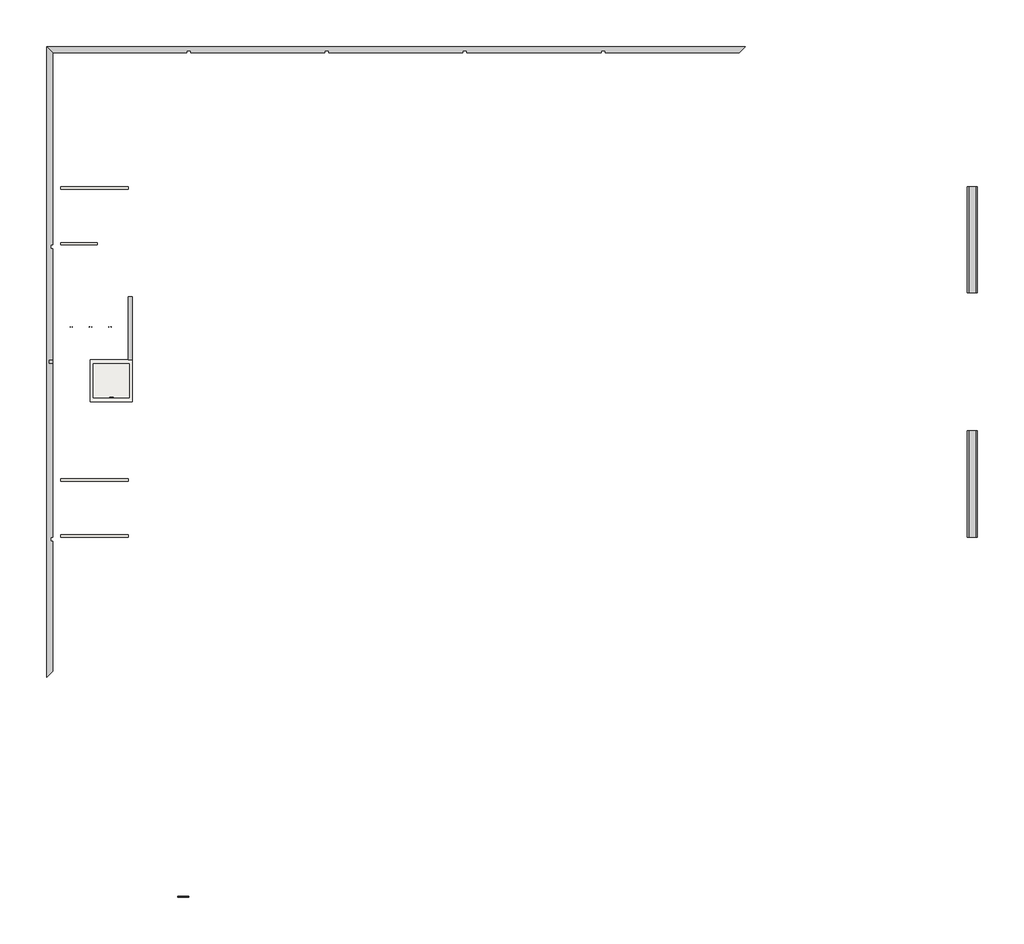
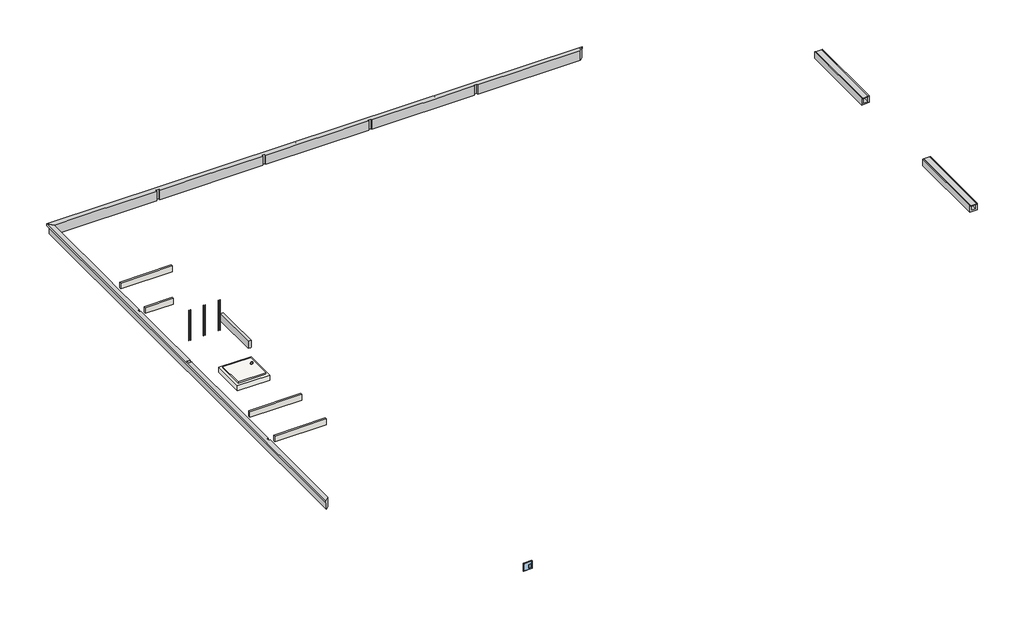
# One storey: 4 walls, 3 beams, 2 flow terminals, 2 proxies, 2 slabs, 1 light fixture, 1 window.
"""IFC4 building model written with IfcOpenShell, lengths in millimetres."""

import ifcopenshell
import ifcopenshell.guid

model = None  # the IFC model being written
_history = None  # IfcOwnerHistory: only IFC2X3 demands one
_inside = {}  # id of a spatial element -> (the spatial element, [elements in it])
_under = {}  # id of a project, library or spatial element -> (it, [spatial elements below it])
_declared = {}  # id of a project -> (the project, [libraries it declares])
_typed = {}  # id of a type object -> (the type object, [elements of that type])
_made_of = {}  # id of a material, layer set ... -> (it, [elements and type objects made of it])


def new_model(schema):
    """Start an empty IFC model of exactly this schema.

    Asked for "IFC4X3", IfcOpenShell would pick the latest addendum, in which some entities
    have other attributes; the version numbers below select the first issue.
    IFC2X3 requires an IfcOwnerHistory on every rooted entity: one is made here for all.
    """
    global model, _history
    if schema == "IFC4X3":
        model = ifcopenshell.file(schema_version=(4, 3, 0, 0))
    else:
        model = ifcopenshell.file(schema=schema)
    _inside.clear()
    _under.clear()
    _declared.clear()
    _typed.clear()
    _made_of.clear()
    _history = None
    if model.schema == "IFC2X3":
        org = make("IfcOrganization", Name="unknown")
        user = make(
            "IfcPersonAndOrganization",
            ThePerson=make("IfcPerson", FamilyName="unknown"),
            TheOrganization=org,
        )
        app = make(
            "IfcApplication",
            ApplicationDeveloper=org,
            Version="unknown",
            ApplicationFullName="unknown",
            ApplicationIdentifier="unknown",
        )
        _history = make(
            "IfcOwnerHistory",
            OwningUser=user,
            OwningApplication=app,
            ChangeAction="ADDED",
            CreationDate=0,
        )
    return model


def make(cls, **values):
    """One entity of the class cls with the attributes given. An attribute that is None is left unset."""
    return model.create_entity(
        cls, **{name: value for name, value in values.items() if value is not None}
    )


def rooted(cls, **values):
    """An entity with a GlobalId (a new one), such as an element, a storey or a relation."""
    return make(cls, GlobalId=ifcopenshell.guid.new(), OwnerHistory=_history, **values)


def si_unit(unit_type, name, prefix=None):
    """IfcSIUnit, for example si_unit("LENGTHUNIT", "METRE", prefix="MILLI")."""
    return make("IfcSIUnit", UnitType=unit_type, Prefix=prefix, Name=name)


def assignment(units):
    """IfcUnitAssignment: the units of a project."""
    return None if units is None else make("IfcUnitAssignment", Units=units)


def point(xyz):
    """IfcCartesianPoint."""
    return None if xyz is None else make("IfcCartesianPoint", Coordinates=xyz)


def direction(xyz):
    """IfcDirection."""
    return None if xyz is None else make("IfcDirection", DirectionRatios=xyz)


def frame(location, z_axis=None, x_axis=None):
    """IfcAxis2Placement3D, a coordinate frame: its origin and axes. An axis left out is left unset."""
    return make(
        "IfcAxis2Placement3D",
        Location=point(location),
        Axis=direction(z_axis),
        RefDirection=direction(x_axis),
    )


def frame_2d(location, x_axis=None):
    """IfcAxis2Placement2D, a coordinate frame in the plane: its origin and x axis."""
    return make(
        "IfcAxis2Placement2D", Location=point(location), RefDirection=direction(x_axis)
    )


def origin():
    """The frame at (0, 0, 0) with its axes left unset."""
    return frame((0.0, 0.0, 0.0))


def origin_with_axes():
    """The frame at (0, 0, 0) with the z axis (0, 0, 1) and the x axis (1, 0, 0) written out."""
    return frame((0.0, 0.0, 0.0), z_axis=(0.0, 0.0, 1.0), x_axis=(1.0, 0.0, 0.0))


def origin_2d():
    """The frame at (0, 0) in the plane with its x axis left unset."""
    return frame_2d((0.0, 0.0))


def place(relative_to, where):
    """IfcLocalPlacement: puts the frame where relative to a parent placement (None: the world)."""
    return make(
        "IfcLocalPlacement", PlacementRelTo=relative_to, RelativePlacement=where
    )


def context(
    kind, dimensions, precision=None, world=None, true_north=None, identifier=None
):
    """IfcGeometricRepresentationContext, for example the 3D "Model" context."""
    return make(
        "IfcGeometricRepresentationContext",
        ContextIdentifier=identifier,
        ContextType=kind,
        CoordinateSpaceDimension=dimensions,
        Precision=precision,
        WorldCoordinateSystem=world,
        TrueNorth=true_north,
    )


def project(units=None, contexts=None):
    """IfcProject with its units and contexts."""
    return rooted(
        "IfcProject",
        Name="project",
        RepresentationContexts=contexts,
        UnitsInContext=assignment(units),
    )


def spatial(cls, under=None, at=None, **own):
    """A site, building, storey or space (cls), placed at a placement, below another one or the project."""
    s = rooted(cls, ObjectPlacement=at, **own)
    if under is not None:
        _under.setdefault(under.id(), (under, []))[1].append(s)
    return s


def polyline(points):
    """IfcPolyline through the points."""
    return make("IfcPolyline", Points=[point(p) for p in points])


def circle_curve(where, radius):
    """IfcCircle in the frame where."""
    return make("IfcCircle", Position=where, Radius=radius)


def trimmed(basis, trim1, trim2, sense, master):
    """IfcTrimmedCurve: the piece of a basis curve between two trims."""
    return make(
        "IfcTrimmedCurve",
        BasisCurve=basis,
        Trim1=trim1,
        Trim2=trim2,
        SenseAgreement=sense,
        MasterRepresentation=master,
    )


def segment(curve, same_sense, transition):
    """IfcCompositeCurveSegment."""
    return make(
        "IfcCompositeCurveSegment",
        Transition=transition,
        SameSense=same_sense,
        ParentCurve=curve,
    )


def composite_curve(segments, self_intersect=None):
    """IfcCompositeCurve: segments joined end to end."""
    return make("IfcCompositeCurve", Segments=segments, SelfIntersect=self_intersect)


def outline(outer, holes=None, kind="AREA"):
    """IfcArbitraryClosedProfileDef: a profile drawn as a closed curve; with holes, ...WithVoids."""
    if holes is None:
        return make("IfcArbitraryClosedProfileDef", ProfileType=kind, OuterCurve=outer)
    return make(
        "IfcArbitraryProfileDefWithVoids",
        ProfileType=kind,
        OuterCurve=outer,
        InnerCurves=holes,
    )


def extrude(swept, where, along, depth):
    """IfcExtrudedAreaSolid: the profile swept, set in the frame where, extruded along a direction by depth."""
    return make(
        "IfcExtrudedAreaSolid",
        SweptArea=swept,
        Position=where,
        ExtrudedDirection=direction(along),
        Depth=depth,
    )


def faces_of(points, faces, orient=None, outer=None):
    """IfcFace entities. A face is a list of loops; a loop is a list of indices into points, from 0.

    orient and outer hold one flag for each loop. By default every Orientation is true, the
    first loop of a face is its IfcFaceOuterBound and the others are IfcFaceBound.
    """
    made = []
    for i, loops in enumerate(faces):
        bounds = []
        for j, loop in enumerate(loops):
            is_outer = j == 0 if outer is None else outer[i][j]
            bounds.append(
                make(
                    "IfcFaceOuterBound" if is_outer else "IfcFaceBound",
                    Bound=make("IfcPolyLoop", Polygon=[points[k] for k in loop]),
                    Orientation=True if orient is None else orient[i][j],
                )
            )
        made.append(make("IfcFace", Bounds=bounds))
    return made


def faceted_brep(points, faces, orient=None, outer=None, voids=None):
    """IfcFacetedBrep: a solid bounded by flat faces; with voids (closed shells), ...WithVoids."""
    shared = [point(p) for p in points]
    hull = make("IfcClosedShell", CfsFaces=faces_of(shared, faces, orient, outer))
    if voids is None:
        return make("IfcFacetedBrep", Outer=hull)
    return make(
        "IfcFacetedBrepWithVoids",
        Outer=hull,
        Voids=[
            make(cls, CfsFaces=faces_of(shared, fs, o, b)) for cls, fs, o, b in voids
        ],
    )


def shape(context_of_items, identifier, shape_type, items):
    """IfcShapeRepresentation: the items that make up one representation, for example the "Body"."""
    return make(
        "IfcShapeRepresentation",
        ContextOfItems=context_of_items,
        RepresentationIdentifier=identifier,
        RepresentationType=shape_type,
        Items=items,
    )


def source(mapping_origin, context_of_items, identifier, shape_type, items):
    """IfcRepresentationMap: a shape defined once, which mapped items show again and again."""
    return make(
        "IfcRepresentationMap",
        MappingOrigin=mapping_origin,
        MappedRepresentation=shape(context_of_items, identifier, shape_type, items),
    )


def transform(
    local_origin,
    x_axis=None,
    y_axis=None,
    z_axis=None,
    scale=None,
    scale2=None,
    scale3=None,
    uniform=True,
):
    """IfcCartesianTransformationOperator3D, or its non-uniform kind. x_axis, y_axis, z_axis: its Axis1, 2, 3."""
    if uniform:
        return make(
            "IfcCartesianTransformationOperator3D",
            Axis1=direction(x_axis),
            Axis2=direction(y_axis),
            LocalOrigin=point(local_origin),
            Scale=scale,
            Axis3=direction(z_axis),
        )
    return make(
        "IfcCartesianTransformationOperator3DnonUniform",
        Axis1=direction(x_axis),
        Axis2=direction(y_axis),
        LocalOrigin=point(local_origin),
        Scale=scale,
        Axis3=direction(z_axis),
        Scale2=scale2,
        Scale3=scale3,
    )


def mapped(mapping_source, mapping_target):
    """IfcMappedItem: shows the shape of a source again, moved by a transform."""
    return make(
        "IfcMappedItem", MappingSource=mapping_source, MappingTarget=mapping_target
    )


def made_of(thing, what):
    """Note that an element or type object is made of a material, layer set ...; save() writes the relation."""
    if what is not None:
        _made_of.setdefault(what.id(), (what, []))[1].append(thing)
    return thing


def element(
    cls,
    number,
    at=None,
    inside=None,
    cuts=None,
    type_object=None,
    material=None,
    context=None,
    identifier="Body",
    shape_type=None,
    held_by="IfcProductDefinitionShape",
    body=None,
    shapes=None,
    **own,
):
    """One element of the class cls, such as IfcWall. Its Tag is "e" and its number.

    at: its placement. inside: the storey or other place that contains it. cuts: it is an
    opening in that element (IfcRelVoidsElement). A single representation is given by context,
    identifier, shape_type and body (its items); several are given by shapes. held_by: the class
    of the entity that holds the representations. save() writes the other relations.
    """
    e = rooted(cls, Tag="e%d" % number, ObjectPlacement=at, **own)
    if body is not None:
        shapes = [shape(context, identifier, shape_type, body)]
    if shapes is not None:
        e.Representation = make(held_by, Representations=shapes)
    if inside is not None:
        _inside.setdefault(inside.id(), (inside, []))[1].append(e)
    if cuts is not None:
        rooted(
            "IfcRelVoidsElement", RelatingBuildingElement=cuts, RelatedOpeningElement=e
        )
    if type_object is not None:
        _typed.setdefault(type_object.id(), (type_object, []))[1].append(e)
    return made_of(e, material)


def aggregate(whole, parts):
    """IfcRelAggregates: a whole, such as a stair, and the parts it consists of."""
    return rooted("IfcRelAggregates", RelatingObject=whole, RelatedObjects=parts)


def save(model, path):
    """Write the relations noted so far, then the file.

    IfcRelAggregates (storeys below a building ...), IfcRelContainedInSpatialStructure (elements
    in a storey), IfcRelDefinesByType, IfcRelAssociatesMaterial and IfcRelDeclares: one each for
    every whole, place, type object, material and project.
    """
    for whole, parts in _under.values():
        aggregate(whole, parts)
    for where, things in _inside.values():
        rooted(
            "IfcRelContainedInSpatialStructure",
            RelatedElements=things,
            RelatingStructure=where,
        )
    for kind, things in _typed.values():
        rooted("IfcRelDefinesByType", RelatedObjects=things, RelatingType=kind)
    for what, things in _made_of.values():
        rooted("IfcRelAssociatesMaterial", RelatedObjects=things, RelatingMaterial=what)
    for by, libraries in _declared.values():
        rooted("IfcRelDeclares", RelatingContext=by, RelatedDefinitions=libraries)
    model.write(path)


def l209_cara_l209_cara_4ba3335d(model_context):
    return source(origin(), model_context, "Body", "SweptSolid", [
        extrude(outline(composite_curve([segment(trimmed(circle_curve(origin_2d(), 82.5), [point((-82.5, 0.0))], [point((82.5, 0.0))], False, "CARTESIAN"), True, "CONTINUOUS"), segment(trimmed(circle_curve(origin_2d(), 82.5), [point((82.5, 0.0))], [point((-82.5, 0.0))], False, "CARTESIAN"), True, "CONTINUOUS")], self_intersect=False)), frame((0.0, 0.0, 30.0), z_axis=(0.0, 0.0, 1.0), x_axis=(1.0, 0.0, 0.0)), (0.0, 0.0, 1.0), 10.0),
        extrude(outline(composite_curve([segment(trimmed(circle_curve(origin_2d(), 87.5), [point((87.5, 0.0))], [point((-87.5, 0.0))], False, "CARTESIAN"), True, "CONTINUOUS"), segment(trimmed(circle_curve(origin_2d(), 87.5), [point((-87.5, 0.0))], [point((87.5, 0.0))], False, "CARTESIAN"), True, "CONTINUOUS")], self_intersect=False), holes=[composite_curve([segment(trimmed(circle_curve(origin_2d(), 82.5), [point((82.5, 0.0))], [point((-82.5, 0.0))], True, "CARTESIAN"), True, "CONTINUOUS"), segment(trimmed(circle_curve(origin_2d(), 82.5), [point((-82.5, 0.0))], [point((82.5, 0.0))], True, "CARTESIAN"), True, "CONTINUOUS")], self_intersect=False)]), origin_with_axes(), (0.0, 0.0, 1.0), 40.0),
    ])


def window_ff0e7445(model_context):
    return source(origin(), model_context, "Body", "SolidModel", [
        extrude(outline(composite_curve([segment(trimmed(circle_curve(frame_2d((1045.0, -236.5)), 12.5), [point((1045.0, -249.0))], [point((1045.0, -224.0))], False, "CARTESIAN"), True, "CONTINUOUS"), segment(trimmed(circle_curve(frame_2d((1045.0, -236.5)), 12.5), [point((1045.0, -224.0))], [point((1045.0, -249.0))], False, "CARTESIAN"), True, "CONTINUOUS")], self_intersect=False)), frame((0.0, 35.7, 0.0), z_axis=(0.0, 1.0, 0.0), x_axis=(0.0, 0.0, 1.0)), (0.0, 0.0, 1.0), 20.0),
        extrude(outline(polyline([(-45.4127642, 52.4), (-195.4127642, 52.4), (-195.4127642, 53.7), (-45.4127642, 53.7), (-45.4127642, 52.4)])), frame((0.0, 0.0, 906.7518498), z_axis=(0.0, 0.0, 1.0), x_axis=(1.0, 0.0, 0.0)), (0.0, 0.0, 1.0), 250.0),
        faceted_brep([(271.5, 52.4, 1329.0), (271.5, 27.0, 1329.0), (271.5, 27.0, 806.0), (271.5, 52.4, 806.0), (-271.5, 27.0, 1329.0), (-271.5, 27.0, 806.0), (267.0, 27.0, 810.5), (-267.0, 27.0, 810.5), (-267.0, 27.0, 1324.5), (267.0, 27.0, 1324.5), (-271.5, 52.4, 806.0), (-271.5, 52.4, 1329.0), (246.1, 52.4, 1303.6), (-246.1, 52.4, 1303.6), (-246.1, 52.4, 831.4), (246.1, 52.4, 831.4), (267.0, 47.9, 1324.5), (267.0, 47.9, 810.5), (-267.0, 47.9, 1324.5), (-267.0, 47.9, 810.5), (246.1, 47.9, 831.4), (-246.1, 47.9, 831.4), (-246.1, 47.9, 1303.6), (246.1, 47.9, 1303.6)], [[[0, 1, 2, 3]], [[1, 4, 5, 2], [6, 7, 8, 9]], [[3, 2, 5, 10]], [[3, 10, 11, 0], [12, 13, 14, 15]], [[9, 16, 17, 6]], [[16, 18, 19, 17], [20, 21, 22, 23]], [[6, 17, 19, 7]], [[23, 12, 15, 20]], [[20, 15, 14, 21]], [[10, 5, 4, 11]], [[7, 19, 18, 8]], [[21, 14, 13, 22]], [[11, 4, 1, 0]], [[8, 18, 16, 9]], [[22, 13, 12, 23]]]),
        extrude(outline(polyline([(1329.0, -271.5), (806.0, -271.5), (806.0, 271.5), (1329.0, 271.5), (1329.0, -271.5)]), holes=[polyline([(1156.7518498, -45.4127642), (906.7518498, -45.4127642), (906.7518498, -195.4127642), (1156.7518498, -195.4127642), (1156.7518498, -45.4127642)])]), frame((0.0, 52.4, 0.0), z_axis=(0.0, 1.0, 0.0), x_axis=(0.0, 0.0, 1.0)), (0.0, 0.0, 1.0), 1.3),
        faceted_brep([(-277.5, 19.7, 1335.0), (-277.5, 45.1, 1335.0), (-277.5, 45.1, 800.0), (-277.5, 19.7, 800.0), (277.5, 45.1, 1335.0), (277.5, 45.1, 800.0), (-271.5, 45.1, 806.0), (271.5, 45.1, 806.0), (271.5, 45.1, 1329.0), (-271.5, 45.1, 1329.0), (277.5, 19.7, 800.0), (277.5, 19.7, 1335.0), (-252.1, 19.7, 1309.6), (252.1, 19.7, 1309.6), (252.1, 19.7, 825.4), (-252.1, 19.7, 825.4), (-271.5, 25.7, 1329.0), (-271.5, 25.7, 806.0), (271.5, 25.7, 1329.0), (271.5, 25.7, 806.0), (-252.1, 25.7, 825.4), (252.1, 25.7, 825.4), (252.1, 25.7, 1309.6), (-252.1, 25.7, 1309.6)], [[[0, 1, 2, 3]], [[1, 4, 5, 2], [6, 7, 8, 9]], [[3, 2, 5, 10]], [[3, 10, 11, 0], [12, 13, 14, 15]], [[9, 16, 17, 6]], [[16, 18, 19, 17], [20, 21, 22, 23]], [[6, 17, 19, 7]], [[23, 12, 15, 20]], [[20, 15, 14, 21]], [[10, 5, 4, 11]], [[7, 19, 18, 8]], [[21, 14, 13, 22]], [[11, 4, 1, 0]], [[8, 18, 16, 9]], [[22, 13, 12, 23]]]),
    ])


model = new_model("IFC4")

# Units and contexts
model_context = context("Model", 3, world=origin())
ifc_project = project(units=[si_unit("LENGTHUNIT", "METRE", prefix="MILLI")], contexts=[model_context])

# Site, building, storey
site = spatial("IfcSite", under=ifc_project)
building = spatial("IfcBuilding", under=site)
storey = spatial("IfcBuildingStorey", under=building, Name="SUBSUELO", Elevation=-1100.0)

# Beams
placement = place(None, origin())
element("IfcBeam", 1, ObjectType="ARES-I-HA-Viga con aleta-PET : Viga fundación-20x65cm-aleta11x11cm-PET", at=placement, inside=storey, context=model_context, shape_type="Brep", body=[
    faceted_brep([(3108.7173693, 31700.2304035, -160.0), (3108.7173693, 240.2304035, -160.0), (3098.7173693, 230.2304035, -150.0), (3098.7173693, 31710.2304035, -150.0), (3088.7173693, 220.2304035, -160.0), (3088.7173693, 31720.2304035, -160.0), (3078.7173693, 210.2304035, -160.0), (3078.7173693, 31730.2304035, -160.0), (3078.7173693, 210.2304035, -50.0), (3078.7173693, 31730.2304035, -50.0), (3388.7173693, 520.2304035, -50.0), (3388.7173693, 920.2304035, -50.0), (3388.7173693, 3693.5637368, -50.0), (3388.7173693, 3843.5637368, -50.0), (3388.7173693, 7020.2304035, -50.0), (3288.7173693, 7020.2304035, -50.0), (3288.7173693, 7220.2304035, -50.0), (3388.7173693, 7220.2304035, -50.0), (3388.7173693, 10120.2304035, -50.0), (3388.7173693, 10320.2304035, -50.0), (3388.7173693, 15850.2304035, -50.0), (3388.7173693, 15870.2304035, -50.0), (3188.7173694, 15870.2304035, -50.0), (3188.7173694, 16070.2304035, -50.0), (3388.7173693, 16070.2304035, -50.0), (3388.7173693, 19220.2304035, -50.0), (3388.7173693, 19420.2304035, -50.0), (3388.7173693, 21620.2304035, -50.0), (3288.7173693, 21620.2304035, -50.0), (3288.7173693, 21820.2304035, -50.0), (3388.7173693, 21820.2304035, -50.0), (3388.7173693, 24720.2304035, -50.0), (3388.7173693, 24920.2304035, -50.0), (3388.7173693, 28095.2304035, -50.0), (3388.7173693, 28245.2304035, -50.0), (3388.7173693, 31020.2304035, -50.0), (3388.7173693, 31420.2304035, -50.0), (3388.7173693, 31420.2304035, -700.0), (3388.7173693, 21820.2304035, -450.0), (3388.7173693, 21820.2304035, -560.0), (3388.7173693, 21820.2304035, -700.0), (3388.7173693, 24720.2304035, -700.0), (3388.7173693, 24920.2304035, -700.0), (3188.7173693, 320.2304035, -700.0), (3188.7173693, 31620.2304035, -700.0), (3288.7173693, 21820.2304035, -700.0), (3288.7173693, 21620.2304035, -700.0), (3388.7173693, 21620.2304035, -700.0), (3388.7173693, 16070.2304035, -700.0), (3388.7173693, 15870.2304035, -700.0), (3388.7173693, 14170.2304035, -700.0), (3388.7173693, 13970.2304035, -700.0), (3388.7173693, 10320.2304035, -700.0), (3388.7173693, 10120.2304035, -700.0), (3388.7173693, 7220.2304035, -700.0), (3288.7173693, 7220.2304035, -700.0), (3288.7173693, 7020.2304035, -700.0), (3388.7173693, 7020.2304035, -700.0), (3388.7173693, 520.2304035, -700.0), (3188.7173693, 320.2304035, -246.8762302), (3188.7173693, 320.2304035, -160.0), (3188.7173693, 15870.2304035, -160.0), (3188.7173693, 15870.2304035, -300.0), (3188.7173693, 16070.2304035, -300.0), (3188.7173693, 16070.2304035, -160.0), (3188.7173693, 31620.2304035, -160.0), (3388.7173693, 520.2304035, -241.3422496), (3388.7173693, 7020.2304035, -160.0), (3388.7173693, 7020.2304035, -241.3422496), (3388.7173693, 7220.2304035, -560.0), (3388.7173693, 7220.2304035, -450.0), (3388.7173693, 21620.2304035, -160.0), (3388.7173693, 21620.2304035, -246.259083), (3388.7173693, 16070.2304035, -300.0), (3388.7173693, 15870.2304035, -300.0)], [[[0, 1, 2, 3]], [[3, 2, 4, 5]], [[5, 4, 6, 7]], [[7, 6, 8, 9]], [[9, 8, 10, 11, 12, 13, 14, 15, 16, 17, 18, 19, 20, 21, 22, 23, 24, 25, 26, 27, 28, 29, 30, 31, 32, 33, 34, 35, 36]], [[37, 36, 35, 34, 33, 32, 31, 30, 38, 39, 40, 41, 42]], [[43, 44, 37, 42, 41, 40, 45, 46, 47, 48, 49, 50, 51, 52, 53, 54, 55, 56, 57, 58]], [[44, 43, 59, 60, 61, 62, 63, 64, 65]], [[1, 0, 65, 64, 61, 60]], [[1, 60, 59, 43, 58, 66, 10, 8, 6, 4, 2]], [[0, 3, 5, 7, 9, 36, 37, 44, 65]], [[56, 15, 14, 67, 68, 57]], [[16, 55, 54, 69, 70, 17]], [[15, 56, 55, 16]], [[10, 66, 58, 57, 68, 67, 14, 13, 12, 11]], [[46, 28, 27, 71, 72, 47]], [[29, 45, 40, 39, 38, 30]], [[28, 46, 45, 29]], [[17, 70, 69, 54, 53, 52, 51, 50, 49, 48, 47, 72, 71, 27, 26, 25, 24, 73, 74, 21, 20, 19, 18]], [[73, 63, 62, 74]], [[63, 73, 24, 23, 64]], [[64, 23, 22, 61]], [[74, 62, 61, 22, 21]]]),
])
element("IfcBeam", 2, ObjectType="ARES-I-HA-Viga con aleta-PET : Viga fundación-20x65cm-aleta11x11cm-PET", at=placement, inside=storey, context=model_context, shape_type="Brep", body=[
    faceted_brep([(37968.7173693, 31700.2304035, -160.0), (37888.7173693, 31700.2304035, -160.0), (28438.7173693, 31700.2304035, -160.0), (19388.7173693, 31700.2304035, -160.0), (3108.7173693, 31700.2304035, -160.0), (3098.7173693, 31710.2304035, -150.0), (19388.7173693, 31710.2304035, -150.0), (28438.7173693, 31710.2304035, -150.0), (37888.7173693, 31710.2304035, -150.0), (37978.7173693, 31710.2304035, -150.0), (3088.7173693, 31720.2304035, -160.0), (19388.7173693, 31720.2304035, -160.0), (28438.7173693, 31720.2304035, -160.0), (37888.7173693, 31720.2304035, -160.0), (37988.7173693, 31720.2304035, -160.0), (3078.7173693, 31730.2304035, -160.0), (19388.7173693, 31730.2304035, -160.0), (28438.7173693, 31730.2304035, -160.0), (37888.7173693, 31730.2304035, -160.0), (37998.7173693, 31730.2304035, -160.0), (3078.7173693, 31730.2304035, -50.0), (37998.7173693, 31730.2304035, -50.0), (3388.7173693, 31420.2304035, -50.0), (6663.7173693, 31420.2304035, -50.0), (6813.7173693, 31420.2304035, -50.0), (10088.7173694, 31420.2304035, -50.0), (10088.7173694, 31520.2304035, -50.0), (10288.7173694, 31520.2304035, -50.0), (10288.7173694, 31420.2304035, -50.0), (13563.7173693, 31420.2304035, -50.0), (13713.7173693, 31420.2304035, -50.0), (16988.7173694, 31420.2304035, -50.0), (16988.7173694, 31520.2304035, -50.0), (17188.7173694, 31520.2304035, -50.0), (17188.7173694, 31420.2304035, -50.0), (20463.7173694, 31420.2304035, -50.0), (20613.7173694, 31420.2304035, -50.0), (23888.7173694, 31420.2304035, -50.0), (23888.7173694, 31520.2304035, -50.0), (24088.7173694, 31520.2304035, -50.0), (24088.7173694, 31420.2304035, -50.0), (27363.7173693, 31420.2304035, -50.0), (27513.7173693, 31420.2304035, -50.0), (30788.7173693, 31420.2304035, -50.0), (30788.7173693, 31520.2304035, -50.0), (30988.7173693, 31520.2304035, -50.0), (30988.7173693, 31420.2304035, -50.0), (34263.7173693, 31420.2304035, -50.0), (34413.7173693, 31420.2304035, -50.0), (37688.7173693, 31420.2304035, -50.0), (37688.7173693, 31420.2304035, -700.0), (30988.7173693, 31420.2304035, -160.0), (30988.7173693, 31420.2304035, -700.0), (3188.7173693, 31620.2304035, -700.0), (37888.7173693, 31620.2304035, -700.0), (30988.7173693, 31520.2304035, -700.0), (30788.7173693, 31520.2304035, -700.0), (30788.7173693, 31420.2304035, -700.0), (24088.7173694, 31420.2304035, -700.0), (24088.7173694, 31520.2304035, -700.0), (23888.7173694, 31520.2304035, -700.0), (23888.7173694, 31420.2304035, -700.0), (17188.7173694, 31420.2304035, -700.0), (17188.7173694, 31520.2304035, -700.0), (16988.7173694, 31520.2304035, -700.0), (16988.7173694, 31420.2304035, -700.0), (10288.7173694, 31420.2304035, -700.0), (10288.7173694, 31520.2304035, -700.0), (10088.7173694, 31520.2304035, -700.0), (10088.7173694, 31420.2304035, -700.0), (3388.7173693, 31420.2304035, -700.0), (3188.7173693, 31620.2304035, -160.0), (19388.7173693, 31620.2304035, -160.0), (28438.7173693, 31620.2304035, -160.0), (37888.7173693, 31620.2304035, -160.0), (10088.7173694, 31420.2304035, -160.0), (10288.7173694, 31420.2304035, -160.0), (16988.7173694, 31420.2304035, -160.0), (17188.7173694, 31420.2304035, -160.0), (23888.7173694, 31420.2304035, -160.0), (24088.7173694, 31420.2304035, -160.0), (30788.7173693, 31420.2304035, -160.0)], [[[0, 1, 2, 3, 4, 5, 6, 7, 8, 9]], [[9, 8, 7, 6, 5, 10, 11, 12, 13, 14]], [[14, 13, 12, 11, 10, 15, 16, 17, 18, 19]], [[19, 18, 17, 16, 15, 20, 21]], [[21, 20, 22, 23, 24, 25, 26, 27, 28, 29, 30, 31, 32, 33, 34, 35, 36, 37, 38, 39, 40, 41, 42, 43, 44, 45, 46, 47, 48, 49]], [[50, 49, 48, 47, 46, 51, 52]], [[53, 54, 50, 52, 55, 56, 57, 58, 59, 60, 61, 62, 63, 64, 65, 66, 67, 68, 69, 70]], [[54, 53, 71, 72, 73, 74]], [[4, 3, 2, 1, 0, 74, 73, 72, 71]], [[4, 71, 53, 70, 22, 20, 15, 10, 5]], [[0, 9, 14, 19, 21, 49, 50, 54, 74]], [[68, 26, 25, 75, 69]], [[27, 67, 66, 76, 28]], [[26, 68, 67, 27]], [[22, 70, 69, 75, 25, 24, 23]], [[64, 32, 31, 77, 65]], [[33, 63, 62, 78, 34]], [[32, 64, 63, 33]], [[28, 76, 66, 65, 77, 31, 30, 29]], [[60, 38, 37, 79, 61]], [[39, 59, 58, 80, 40]], [[38, 60, 59, 39]], [[34, 78, 62, 61, 79, 37, 36, 35]], [[56, 44, 43, 81, 57]], [[45, 55, 52, 51, 46]], [[44, 56, 55, 45]], [[40, 80, 58, 57, 81, 43, 42, 41]]]),
])
element("IfcBeam", 3, ObjectType="ARES-I-HA-Viga rectangular-PET : Viga-20x48cm-PET", at=placement, inside=storey, context=model_context, shape_type="Brep", body=[
    faceted_brep([(7168.7173694, 16070.2304035, -80.0), (7368.7173694, 16070.2304035, -80.0), (7368.7173694, 18070.2304035, -80.0), (7368.7173694, 18270.2304035, -80.0), (7368.7173694, 19220.2304035, -80.0), (7168.7173694, 19220.2304035, -80.0), (7168.7173694, 16070.2304035, -560.0), (7168.7173694, 16070.2304035, -430.0), (7168.7173694, 16070.2304035, -300.0), (7168.7173694, 19220.2304035, -300.0), (7168.7173694, 19220.2304035, -430.0), (7168.7173694, 19220.2304035, -560.0), (7368.7173694, 16070.2304035, -560.0), (7343.7173694, 16070.2304035, -560.0), (7368.7173694, 19220.2304035, -560.0)], [[[0, 1, 2, 3, 4, 5]], [[6, 7, 8, 0, 5, 9, 10, 11]], [[12, 13, 6, 11, 14]], [[1, 12, 14, 4, 3, 2]], [[1, 0, 8, 7, 6, 13, 12]], [[5, 4, 14, 11, 10, 9]]]),
])

# Proxies
element("IfcBuildingElementProxy", 4, Name="23-BAR-CANTONERA PERFIL L", ObjectType="23-BAR-CANTONERA PERFIL L", at=placement, inside=storey, context=model_context, shape_type="SweptSolid", body=[
    extrude(outline(polyline([(6192.7173694, 17721.2304035), (6192.7173694, 17720.2304035), (6183.7173694, 17720.2304035), (6183.7173694, 17711.2304035), (6182.7173694, 17711.2304035), (6182.7173694, 17721.2304035), (6192.7173694, 17721.2304035)])), origin_with_axes(), (0.0, 0.0, 1.0), 2091.5),
    extrude(outline(polyline([(5227.7173694, 17721.2304035), (5227.7173694, 17720.2304035), (5218.7173694, 17720.2304035), (5218.7173694, 17711.2304035), (5217.7173694, 17711.2304035), (5217.7173694, 17721.2304035), (5227.7173694, 17721.2304035)])), frame((0.0, 0.0, -0.0145135), z_axis=(0.0, 0.0, 1.0), x_axis=(1.0, 0.0, 0.0)), (0.0, 0.0, 1.0), 2091.5145135),
    extrude(outline(polyline([(4262.7173694, 17721.2304035), (4262.7173694, 17720.2304035), (4253.7173694, 17720.2304035), (4253.7173694, 17711.2304035), (4252.7173694, 17711.2304035), (4252.7173694, 17721.2304035), (4262.7173694, 17721.2304035)])), frame((0.0, 0.0, 0.0597053), z_axis=(0.0, 0.0, 1.0), x_axis=(1.0, 0.0, 0.0)), (0.0, 0.0, 1.0), 2091.4402947),
])
element("IfcBuildingElementProxy", 5, Name="23-BAR-CANTONERA PERFIL L 180", ObjectType="23-BAR-CANTONERA PERFIL L 180", at=placement, inside=storey, context=model_context, shape_type="SweptSolid", body=[
    extrude(outline(polyline([(6304.7173694, 17711.2304035), (6303.7173694, 17711.2304035), (6303.7173694, 17720.2304035), (6294.7173694, 17720.2304035), (6294.7173694, 17721.2304035), (6304.7173694, 17721.2304035), (6304.7173694, 17711.2304035)])), origin_with_axes(), (0.0, 0.0, 1.0), 2091.5),
    extrude(outline(polyline([(5339.7173694, 17711.2304035), (5338.7173694, 17711.2304035), (5338.7173694, 17720.2304035), (5329.7173694, 17720.2304035), (5329.7173694, 17721.2304035), (5339.7173694, 17721.2304035), (5339.7173694, 17711.2304035)])), frame((0.0, 0.0, -0.0031765), z_axis=(0.0, 0.0, 1.0), x_axis=(1.0, 0.0, 0.0)), (0.0, 0.0, 1.0), 2091.5031765),
    extrude(outline(polyline([(4374.7173694, 17711.2304035), (4373.7173694, 17711.2304035), (4373.7173694, 17720.2304035), (4364.7173694, 17720.2304035), (4364.7173694, 17721.2304035), (4374.7173694, 17721.2304035), (4374.7173694, 17711.2304035)])), origin_with_axes(), (0.0, 0.0, 1.0), 2091.5),
])

# Flow terminals
element("IfcFlowTerminal", 6, ObjectType="Reguera Esquematica : Reguera 50x45_Seccion 30x25", at=placement, inside=storey, context=model_context, shape_type="SweptSolid", body=[
    extrude(outline(polyline([(-500.0, 49597.2173693), (-50.0, 49597.2173693), (-50.0, 49537.2173693), (-100.0, 49537.2173693), (-100.0, 49497.2173693), (-400.0, 49497.2173693), (-400.0, 49197.2173693), (-100.0, 49197.2173693), (-100.0, 49157.2173693), (-50.0, 49157.2173693), (-50.0, 49097.2173693), (-500.0, 49097.2173693), (-500.0, 49597.2173693)])), frame((0.0, 19420.2304035, 0.0), z_axis=(0.0, 1.0, 0.0), x_axis=(0.0, 0.0, 1.0)), (0.0, 0.0, 1.0), 5300.0),
    extrude(outline(polyline([(49537.2173693, 19420.2304035), (49157.2173693, 19420.2304035), (49157.2173693, 24720.2304035), (49537.2173693, 24720.2304035), (49537.2173693, 19420.2304035)])), frame((0.0, 0.0, -100.0), z_axis=(0.0, 0.0, 1.0), x_axis=(1.0, 0.0, 0.0)), (0.0, 0.0, 1.0), 50.0),
])
element("IfcFlowTerminal", 7, ObjectType="Reguera Esquematica : Reguera 50x45_Seccion 30x25", at=placement, inside=storey, context=model_context, shape_type="SweptSolid", body=[
    extrude(outline(polyline([(-500.0, 49597.2173693), (-50.0, 49597.2173693), (-50.0, 49537.2173693), (-100.0, 49537.2173693), (-100.0, 49497.2173693), (-400.0, 49497.2173693), (-400.0, 49197.2173693), (-100.0, 49197.2173693), (-100.0, 49157.2173693), (-50.0, 49157.2173693), (-50.0, 49097.2173693), (-500.0, 49097.2173693), (-500.0, 49597.2173693)])), frame((0.0, 7220.2304035, 0.0), z_axis=(0.0, 1.0, 0.0), x_axis=(0.0, 0.0, 1.0)), (0.0, 0.0, 1.0), 5300.0),
    extrude(outline(polyline([(49537.2173693, 7220.2304035), (49157.2173693, 7220.2304035), (49157.2173693, 12520.2304035), (49537.2173693, 12520.2304035), (49537.2173693, 7220.2304035)])), frame((0.0, 0.0, -100.0), z_axis=(0.0, 0.0, 1.0), x_axis=(1.0, 0.0, 0.0)), (0.0, 0.0, 1.0), 50.0),
])

# Light fixture
l209_cara_l209_cara_shape = l209_cara_l209_cara_4ba3335d(model_context)
element("IfcLightFixture", 8, ObjectType="L209 Cara : L209 Cara", at=placement, inside=storey, context=model_context, shape_type="MappedRepresentation", body=[
    mapped(l209_cara_l209_cara_shape, transform((6318.7173694, 14170.2304035, -129.3369444), x_axis=(0.0, 0.0, -1.0), y_axis=(-1.0, 0.0, 0.0), z_axis=(0.0, 1.0, 0.0))),
])

# Slabs
element("IfcSlab", 9, ObjectType="Sub base y descalce fundaciones 35cm", at=placement, inside=storey, context=model_context, shape_type="Brep", body=[
    faceted_brep([(7368.7173694, 16070.2304035, -1550.0), (7368.7173694, 13970.2304035, -1550.0), (5268.7173693, 13970.2304035, -1550.0), (5268.7173693, 16070.2304035, -1550.0), (7368.7173694, 16070.2304035, -1200.0), (5268.7173693, 16070.2304035, -1200.0), (5268.7173693, 15870.2304035, -1200.0), (5268.7173693, 14170.2304035, -1200.0), (5268.7173693, 13970.2304035, -1200.0), (7368.7173694, 13970.2304035, -1200.0), (7368.7173694, 14170.2304035, -1200.0), (7368.7173694, 15870.2304035, -1200.0)], [[[0, 1, 2, 3]], [[4, 5, 6, 7, 8, 9, 10, 11]], [[1, 0, 4, 11, 10, 9]], [[2, 1, 9, 8]], [[3, 2, 8, 7, 6, 5]], [[0, 3, 5, 4]]]),
])
element("IfcSlab", 10, ObjectType="LOSA-INT-HA-10cm-PET", at=placement, inside=storey, context=model_context, shape_type="SweptSolid", body=[
    extrude(outline(polyline([(7218.7173694, 15870.2304035), (7218.7173694, 14170.2304035), (5418.7173693, 14170.2304035), (5418.7173693, 15870.2304035), (7218.7173694, 15870.2304035)])), frame((0.0, 0.0, -1200.0), z_axis=(0.0, 0.0, 1.0), x_axis=(1.0, 0.0, 0.0)), (0.0, 0.0, 1.0), 100.0),
])

# Walls
element("IfcWall", 11, ObjectType="REVE-EXT-Ladrillo Hormigón-11cm-PET", at=placement, inside=storey, context=model_context, shape_type="SweptSolid", body=[
    extrude(outline(polyline([(7168.7173693, 24610.2304035), (3788.7173693, 24610.2304035), (3788.7173693, 24720.2304035), (7168.7173693, 24720.2304035), (7168.7173693, 24610.2304035)])), frame((0.0, 0.0, -450.0), z_axis=(0.0, 0.0, 1.0), x_axis=(1.0, 0.0, 0.0)), (0.0, 0.0, 1.0), 400.0),
])
element("IfcWall", 12, ObjectType="REVE-EXT-Ladrillo Hormigón-11cm-PET", at=placement, inside=storey, context=model_context, shape_type="SweptSolid", body=[
    extrude(outline(polyline([(5618.7173693, 21820.2304035), (3788.7173693, 21820.2304035), (3788.7173693, 21930.2304035), (5618.7173693, 21930.2304035), (5618.7173693, 21820.2304035)])), frame((0.0, 0.0, -450.0), z_axis=(0.0, 0.0, 1.0), x_axis=(1.0, 0.0, 0.0)), (0.0, 0.0, 1.0), 400.0),
])
element("IfcWall", 13, ObjectType="REVE-EXT-Ladrillo Hormigón-11cm-PET", at=placement, inside=storey, context=model_context, shape_type="SweptSolid", body=[
    extrude(outline(polyline([(7168.7173693, 10010.2304035), (3788.7173693, 10010.2304035), (3788.7173693, 10120.2304035), (7168.7173693, 10120.2304035), (7168.7173693, 10010.2304035)])), frame((0.0, 0.0, -450.0), z_axis=(0.0, 0.0, 1.0), x_axis=(1.0, 0.0, 0.0)), (0.0, 0.0, 1.0), 400.0),
])
element("IfcWall", 14, ObjectType="REVE-EXT-Ladrillo Hormigón-11cm-PET", at=placement, inside=storey, context=model_context, shape_type="SweptSolid", body=[
    extrude(outline(polyline([(7168.7173693, 7220.2304035), (3788.7173693, 7220.2304035), (3788.7173693, 7330.2304035), (7168.7173693, 7330.2304035), (7168.7173693, 7220.2304035)])), frame((0.0, 0.0, -450.0), z_axis=(0.0, 0.0, 1.0), x_axis=(1.0, 0.0, 0.0)), (0.0, 0.0, 1.0), 400.0),
])

# Window
window_shape = window_ff0e7445(model_context)
element("IfcWindow", 15, ObjectType="H109 Puertas nichos chapa y ventana : H109 Puerta nicho OSE", at=placement, inside=storey, context=model_context, shape_type="MappedRepresentation", body=[
    mapped(window_shape, transform((9911.2173694, -10717.9343451, -1305.7), x_axis=(-1.0, 0.0, 0.0), y_axis=(0.0, -1.0, 0.0), z_axis=(0.0, 0.0, 1.0))),
])

save(model, "model.ifc")
